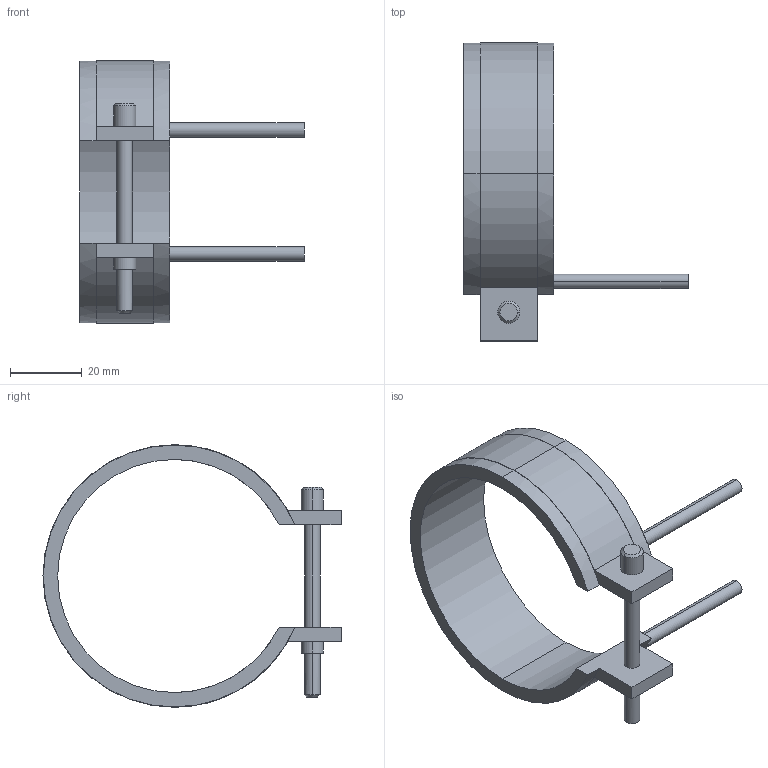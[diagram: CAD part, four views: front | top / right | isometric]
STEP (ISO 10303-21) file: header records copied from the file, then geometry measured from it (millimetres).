
FILE_DESCRIPTION(('CATIA V5 STEP Exchange'),'2;1');
FILE_NAME('C:\Users\Utente\Desktop\IO LAVORO\3D X SITO CF\X SITO\PLASTICA\RF2\14065025.stp','2021-04-03T07:57:57+00:00',('none'),('none'),'CATIA Version 5 Release 20 GA (IN-10)','CATIA V5 STEP AP203','none');
FILE_SCHEMA(('CONFIG_CONTROL_DESIGN'));
Length unit declared in the file: millimetre
Products named in the file (1): 14065025
Bounding box: 62.5 x 83.1 x 73.2 mm (x, y, z)
Volume: 22647.3 mm3; surface area: 13871.8 mm2
Topology: 1 solids, 1 shells, 45 faces, 116 edges, 76 vertices
Faces by surface type: cylinder 24, plane 17, cone 4
Entity records: 1406 total; most frequent: CARTESIAN_POINT 280, ORIENTED_EDGE 232, DIRECTION 196, EDGE_CURVE 116, AXIS2_PLACEMENT_3D 104, VERTEX_POINT 76, CIRCLE 62, VECTOR 52
